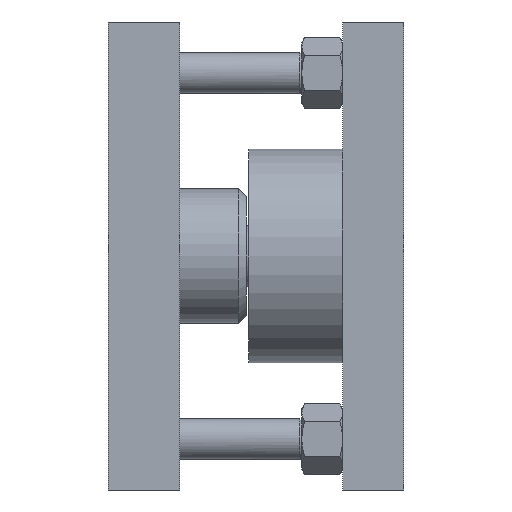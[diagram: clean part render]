
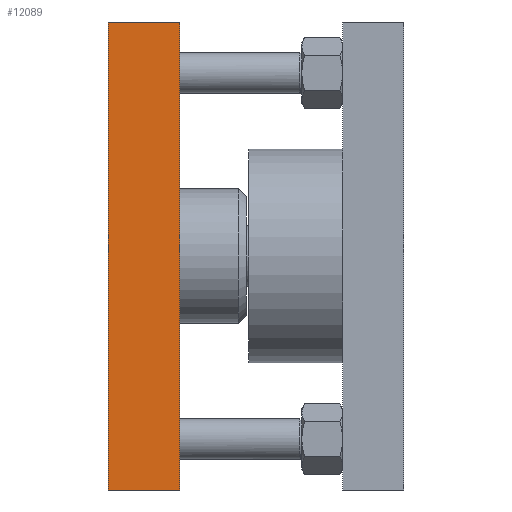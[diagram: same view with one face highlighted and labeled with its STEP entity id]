
A CAD part, left-side view. The second image highlights one B-rep face of the part: STEP entity #12089.
In plain terms, the highlighted planar face has unit normal (-1, 0, 0).
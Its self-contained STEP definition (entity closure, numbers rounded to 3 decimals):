
#295=PLANE('',#12971);
#1086=FACE_OUTER_BOUND('',#1835,.T.);
#1835=EDGE_LOOP('',(#10178,#10179,#10180,#10181));
#3432=LINE('',#44087,#4121);
#3451=LINE('',#44142,#4140);
#3452=LINE('',#44145,#4141);
#3453=LINE('',#44146,#4142);
#4121=VECTOR('',#14956,10.);
#4140=VECTOR('',#15013,10.);
#4141=VECTOR('',#15016,10.);
#4142=VECTOR('',#15017,10.);
#5183=VERTEX_POINT('',#44080);
#5186=VERTEX_POINT('',#44085);
#5203=VERTEX_POINT('',#44139);
#5204=VERTEX_POINT('',#44144);
#6879=EDGE_CURVE('',#5186,#5183,#3432,.T.);
#6907=EDGE_CURVE('',#5203,#5183,#3451,.T.);
#6908=EDGE_CURVE('',#5203,#5204,#3452,.T.);
#6909=EDGE_CURVE('',#5204,#5186,#3453,.T.);
#10178=ORIENTED_EDGE('',*,*,#6908,.F.);
#10179=ORIENTED_EDGE('',*,*,#6907,.T.);
#10180=ORIENTED_EDGE('',*,*,#6879,.F.);
#10181=ORIENTED_EDGE('',*,*,#6909,.F.);
#12089=ADVANCED_FACE('',(#1086),#295,.T.);
#12971=AXIS2_PLACEMENT_3D('',#44143,#15014,#15015);
#14956=DIRECTION('',(0.,0.,-1.));
#15013=DIRECTION('',(0.,-1.,0.));
#15014=DIRECTION('center_axis',(-1.,0.,0.));
#15015=DIRECTION('ref_axis',(0.,0.,-1.));
#15016=DIRECTION('',(0.,0.,1.));
#15017=DIRECTION('',(0.,-1.,0.));
#44080=CARTESIAN_POINT('',(-90.,110.1,-115.));
#44085=CARTESIAN_POINT('',(-90.,110.1,115.));
#44087=CARTESIAN_POINT('',(-90.,110.1,57.5));
#44139=CARTESIAN_POINT('',(-90.,145.1,-115.));
#44142=CARTESIAN_POINT('',(-90.,145.1,-115.));
#44143=CARTESIAN_POINT('Origin',(-90.,145.1,115.));
#44144=CARTESIAN_POINT('',(-90.,145.1,115.));
#44145=CARTESIAN_POINT('',(-90.,145.1,-115.));
#44146=CARTESIAN_POINT('',(-90.,145.1,115.));
